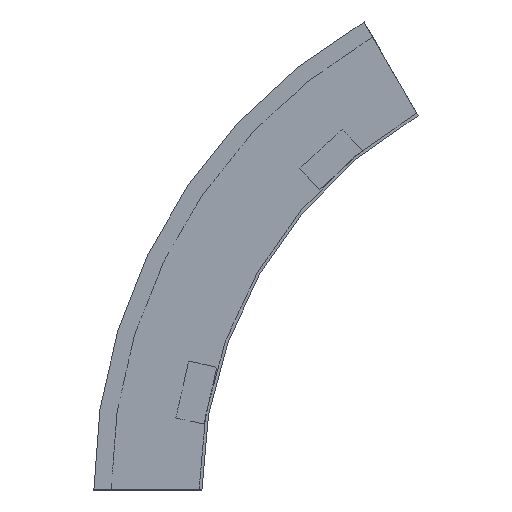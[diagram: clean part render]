
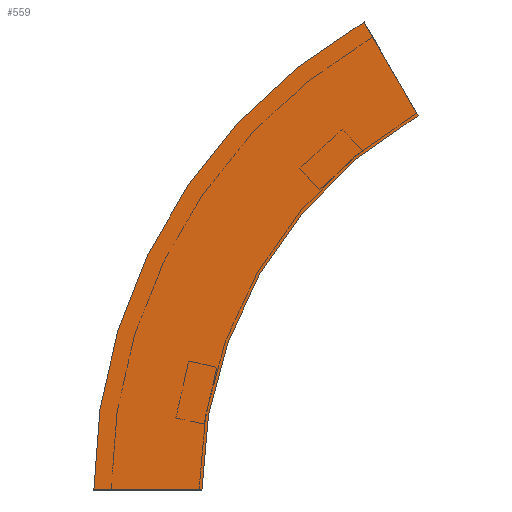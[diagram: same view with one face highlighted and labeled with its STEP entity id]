
A CAD part, left-side view. The second image highlights one B-rep face of the part: STEP entity #559.
In plain terms, the highlighted planar face has unit normal (-1, 0, 0) as drawn and (1, 0, 0) by its records, which use the part's own axes.
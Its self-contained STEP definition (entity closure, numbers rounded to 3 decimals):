
#12 = AXIS2_PLACEMENT_3D ( 'NONE', #211, #282, #558 ) ;
#32 = EDGE_CURVE ( 'NONE', #249, #219, #79, .T. ) ;
#48 = ORIENTED_EDGE ( 'NONE', *, *, #32, .F. ) ;
#51 = VECTOR ( 'NONE', #66, 1000. ) ;
#52 = ORIENTED_EDGE ( 'NONE', *, *, #60, .F. ) ;
#60 = EDGE_CURVE ( 'NONE', #219, #115, #164, .T. ) ;
#66 = DIRECTION ( 'NONE',  ( 0., 1., 0. ) ) ;
#71 = CARTESIAN_POINT ( 'NONE',  ( 0., -150., 259.808 ) ) ;
#73 = CARTESIAN_POINT ( 'NONE',  ( 0., -150., 259.808 ) ) ;
#79 = CIRCLE ( 'NONE', #12, 300. ) ;
#82 = ORIENTED_EDGE ( 'NONE', *, *, #254, .T. ) ;
#96 = AXIS2_PLACEMENT_3D ( 'NONE', #360, #154, #110 ) ;
#107 = LINE ( 'NONE', #358, #51 ) ;
#110 = DIRECTION ( 'NONE',  ( 0., 0., -1. ) ) ;
#115 = VERTEX_POINT ( 'NONE', #346 ) ;
#154 = DIRECTION ( 'NONE',  ( 1., 0., 0. ) ) ;
#158 = EDGE_CURVE ( 'NONE', #249, #415, #107, .T. ) ;
#164 = LINE ( 'NONE', #71, #215 ) ;
#204 = AXIS2_PLACEMENT_3D ( 'NONE', #333, #221, #568 ) ;
#211 = CARTESIAN_POINT ( 'NONE',  ( 0., -300., 0. ) ) ;
#215 = VECTOR ( 'NONE', #408, 1000. ) ;
#219 = VERTEX_POINT ( 'NONE', #73 ) ;
#221 = DIRECTION ( 'NONE',  ( 1., 0., 0. ) ) ;
#248 = FACE_OUTER_BOUND ( 'NONE', #465, .T. ) ;
#249 = VERTEX_POINT ( 'NONE', #409 ) ;
#254 = EDGE_CURVE ( 'NONE', #415, #115, #439, .T. ) ;
#275 = ORIENTED_EDGE ( 'NONE', *, *, #158, .T. ) ;
#282 = DIRECTION ( 'NONE',  ( 1., 0., 0. ) ) ;
#333 = CARTESIAN_POINT ( 'NONE',  ( 0., -300., 0. ) ) ;
#346 = CARTESIAN_POINT ( 'NONE',  ( 0., -112.5, 324.76 ) ) ;
#358 = CARTESIAN_POINT ( 'NONE',  ( 0., 0., 0. ) ) ;
#360 = CARTESIAN_POINT ( 'NONE',  ( 0., 0., 0. ) ) ;
#408 = DIRECTION ( 'NONE',  ( 0., 0.5, 0.866 ) ) ;
#409 = CARTESIAN_POINT ( 'NONE',  ( 0., 0., 0. ) ) ;
#415 = VERTEX_POINT ( 'NONE', #495 ) ;
#439 = CIRCLE ( 'NONE', #204, 375. ) ;
#465 = EDGE_LOOP ( 'NONE', ( #82, #52, #48, #275 ) ) ;
#495 = CARTESIAN_POINT ( 'NONE',  ( 0., 75., 0. ) ) ;
#540 = PLANE ( 'NONE',  #96 ) ;
#558 = DIRECTION ( 'NONE',  ( 0., 1., 0. ) ) ;
#559 = ADVANCED_FACE ( 'NONE', ( #248 ), #540, .T. ) ;
#568 = DIRECTION ( 'NONE',  ( 0., 1., 0. ) ) ;
